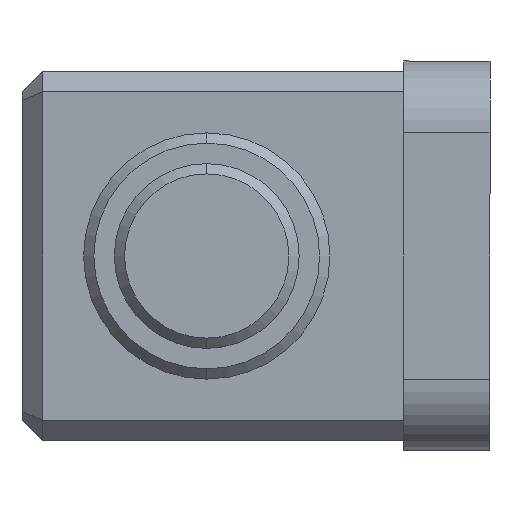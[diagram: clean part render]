
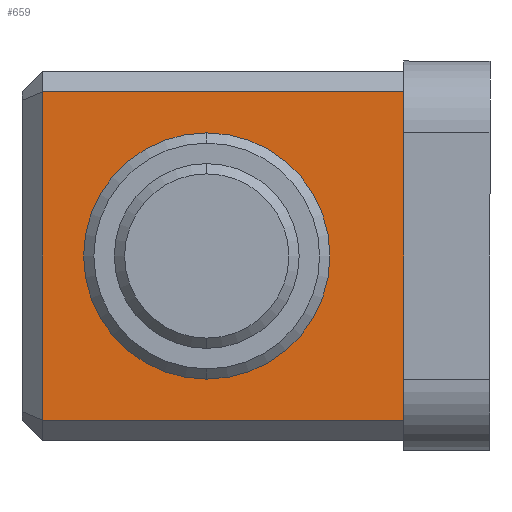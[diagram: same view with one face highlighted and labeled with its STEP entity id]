
A CAD part, left-side view. The second image highlights one B-rep face of the part: STEP entity #659.
In plain terms, the highlighted planar face has unit normal (-1, 0, 0).
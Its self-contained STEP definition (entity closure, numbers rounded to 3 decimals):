
#37 = PLANE ( 'NONE',  #2517 ) ;
#135 = CARTESIAN_POINT ( 'NONE',  ( -5., 21.8, -8. ) ) ;
#162 = VERTEX_POINT ( 'NONE', #252 ) ;
#178 = CARTESIAN_POINT ( 'NONE',  ( -5., 21.8, -8. ) ) ;
#180 = VECTOR ( 'NONE', #1157, 1000. ) ;
#252 = CARTESIAN_POINT ( 'NONE',  ( -5., 13.8, -6. ) ) ;
#270 = CARTESIAN_POINT ( 'NONE',  ( -5., 4.2, -8. ) ) ;
#309 = CARTESIAN_POINT ( 'NONE',  ( -5., 13.8, 0. ) ) ;
#361 = EDGE_LOOP ( 'NONE', ( #1382, #732, #1703, #1621 ) ) ;
#508 = LINE ( 'NONE', #1665, #724 ) ;
#562 = CARTESIAN_POINT ( 'NONE',  ( -5., 4.2, -9. ) ) ;
#600 = FACE_BOUND ( 'NONE', #1599, .T. ) ;
#659 = ADVANCED_FACE ( 'NONE', ( #600, #988 ), #37, .T. ) ;
#724 = VECTOR ( 'NONE', #1641, 1000. ) ;
#732 = ORIENTED_EDGE ( 'NONE', *, *, #1138, .T. ) ;
#743 = DIRECTION ( 'NONE',  ( 0., 0., -1. ) ) ;
#877 = CARTESIAN_POINT ( 'NONE',  ( -5., 13.8, 6. ) ) ;
#912 = DIRECTION ( 'NONE',  ( 0., 0., -1. ) ) ;
#920 = EDGE_CURVE ( 'NONE', #2235, #1022, #2483, .T. ) ;
#936 = AXIS2_PLACEMENT_3D ( 'NONE', #309, #2191, #1081 ) ;
#988 = FACE_OUTER_BOUND ( 'NONE', #361, .T. ) ;
#1013 = EDGE_CURVE ( 'NONE', #162, #2068, #2045, .T. ) ;
#1022 = VERTEX_POINT ( 'NONE', #270 ) ;
#1081 = DIRECTION ( 'NONE',  ( 0., 0., 1. ) ) ;
#1138 = EDGE_CURVE ( 'NONE', #2271, #1244, #1305, .T. ) ;
#1149 = VECTOR ( 'NONE', #743, 1000. ) ;
#1157 = DIRECTION ( 'NONE',  ( 0., 1., 0. ) ) ;
#1218 = DIRECTION ( 'NONE',  ( -1., 0., 0. ) ) ;
#1224 = CARTESIAN_POINT ( 'NONE',  ( -5., 21.8, 8. ) ) ;
#1244 = VERTEX_POINT ( 'NONE', #135 ) ;
#1270 = EDGE_CURVE ( 'NONE', #2068, #162, #2293, .T. ) ;
#1305 = LINE ( 'NONE', #178, #1597 ) ;
#1381 = LINE ( 'NONE', #2510, #180 ) ;
#1382 = ORIENTED_EDGE ( 'NONE', *, *, #1693, .T. ) ;
#1405 = CARTESIAN_POINT ( 'NONE',  ( -5., 22.8, 9. ) ) ;
#1597 = VECTOR ( 'NONE', #912, 1000. ) ;
#1599 = EDGE_LOOP ( 'NONE', ( #1956, #2078 ) ) ;
#1621 = ORIENTED_EDGE ( 'NONE', *, *, #920, .F. ) ;
#1641 = DIRECTION ( 'NONE',  ( 0., -1., 0. ) ) ;
#1665 = CARTESIAN_POINT ( 'NONE',  ( -5., 4.2, -8. ) ) ;
#1693 = EDGE_CURVE ( 'NONE', #2235, #2271, #1381, .T. ) ;
#1703 = ORIENTED_EDGE ( 'NONE', *, *, #2322, .T. ) ;
#1874 = DIRECTION ( 'NONE',  ( 0., 0., 1. ) ) ;
#1916 = DIRECTION ( 'NONE',  ( 1., 0., 0. ) ) ;
#1955 = CARTESIAN_POINT ( 'NONE',  ( -5., 4.2, 8. ) ) ;
#1956 = ORIENTED_EDGE ( 'NONE', *, *, #1270, .T. ) ;
#2007 = DIRECTION ( 'NONE',  ( 0., 0., 1. ) ) ;
#2045 = CIRCLE ( 'NONE', #936, 6. ) ;
#2068 = VERTEX_POINT ( 'NONE', #877 ) ;
#2078 = ORIENTED_EDGE ( 'NONE', *, *, #1013, .T. ) ;
#2191 = DIRECTION ( 'NONE',  ( 1., 0., 0. ) ) ;
#2235 = VERTEX_POINT ( 'NONE', #1955 ) ;
#2271 = VERTEX_POINT ( 'NONE', #1224 ) ;
#2293 = CIRCLE ( 'NONE', #2490, 6. ) ;
#2322 = EDGE_CURVE ( 'NONE', #1244, #1022, #508, .T. ) ;
#2483 = LINE ( 'NONE', #562, #1149 ) ;
#2490 = AXIS2_PLACEMENT_3D ( 'NONE', #2493, #1916, #1874 ) ;
#2493 = CARTESIAN_POINT ( 'NONE',  ( -5., 13.8, 0. ) ) ;
#2510 = CARTESIAN_POINT ( 'NONE',  ( -5., 22.8, 8. ) ) ;
#2517 = AXIS2_PLACEMENT_3D ( 'NONE', #1405, #1218, #2007 ) ;
